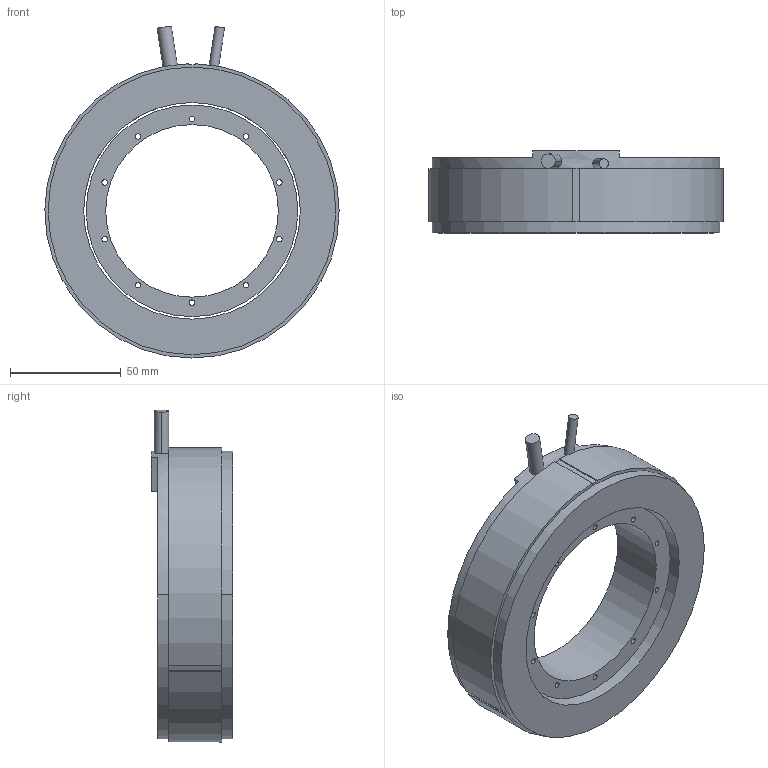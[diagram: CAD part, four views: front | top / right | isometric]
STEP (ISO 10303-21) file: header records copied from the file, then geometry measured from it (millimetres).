
FILE_DESCRIPTION (( 'STEP AP203' ), '1' );
FILE_NAME ('TMX133-34 3D.STEP', '2022-11-23T02:17:46', ( '' ), ( '' ), 'SwSTEP 2.0', 'SolidWorks 2021', '' );
FILE_SCHEMA (( 'CONFIG_CONTROL_DESIGN' ));
Length unit declared in the file: millimetre
Products named in the file (3): TM133-34 3D; TMX133-34 KIT 3D; TMX133-34 3D
Assembly tree (2 placements, depth 2):
  TMX133-34 3D
    TM133-34 3D
    TMX133-34 KIT 3D
Bounding box: 133 x 37 x 150.04 mm (x, y, z)
Volume: 270757.6 mm3; surface area: 58384.6 mm2
Topology: 2 solids, 2 shells, 58 faces, 153 edges, 102 vertices
Faces by surface type: cylinder 38, plane 20
Entity records: 2300 total; most frequent: CARTESIAN_POINT 440, DIRECTION 351, ORIENTED_EDGE 306, EDGE_CURVE 153, AXIS2_PLACEMENT_3D 139, VERTEX_POINT 102, EDGE_LOOP 85, CIRCLE 76
